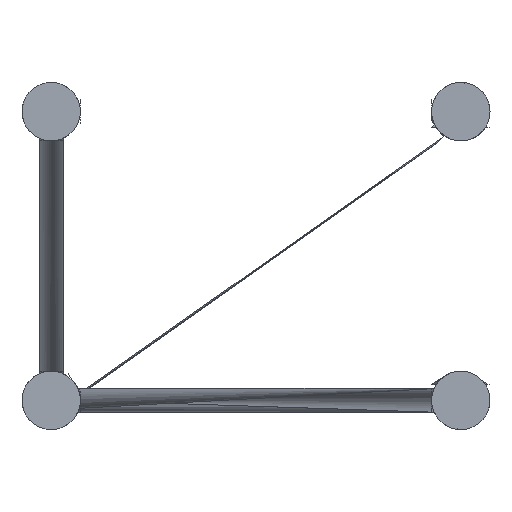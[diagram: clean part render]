
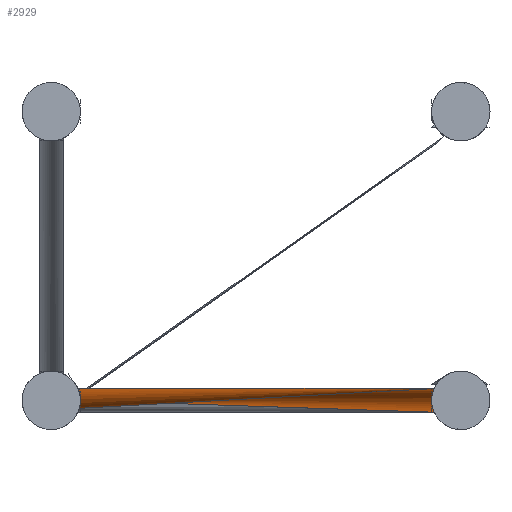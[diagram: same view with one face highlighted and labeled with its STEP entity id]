
A CAD part, left-side view. The second image highlights one B-rep face of the part: STEP entity #2929.
In plain terms, the highlighted cylindrical face has radius 10 mm (diameter 20 mm), a partial arc.
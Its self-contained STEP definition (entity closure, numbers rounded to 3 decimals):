
#116=B_SPLINE_CURVE_WITH_KNOTS('',3,(#6158,#6159,#6160,#6161,#6162,#6163,
#6164,#6165,#6166,#6167,#6168,#6169,#6170,#6171,#6172,#6173,#6174,#6175,
#6176,#6177,#6178,#6179,#6180,#6181,#6182,#6183,#6184,#6185,#6186,#6187,
#6188,#6189,#6190,#6191,#6192,#6193,#6194,#6195,#6196,#6197,#6198,#6199,
#6200,#6201,#6202,#6203),.UNSPECIFIED.,.T.,.F.,(4,2,2,2,2,2,2,2,2,2,2,2,
2,2,2,2,2,2,2,2,2,2,4),(0.,0.59,1.18,1.458,
1.736,1.91,2.084,2.259,2.433,
2.711,2.989,3.579,4.169,4.681,
4.937,5.193,5.558,5.924,6.29,
6.655,6.911,7.167,7.679),
 .UNSPECIFIED.);
#117=B_SPLINE_CURVE_WITH_KNOTS('',3,(#6205,#6206,#6207,#6208,#6209,#6210,
#6211,#6212,#6213,#6214,#6215,#6216,#6217,#6218,#6219,#6220,#6221,#6222,
#6223,#6224,#6225,#6226,#6227,#6228,#6229,#6230,#6231,#6232,#6233,#6234,
#6235,#6236,#6237,#6238,#6239,#6240,#6241,#6242,#6243,#6244,#6245,#6246,
#6247,#6248,#6249,#6250),.UNSPECIFIED.,.T.,.F.,(4,2,2,2,2,2,2,2,2,2,2,2,
2,2,2,2,2,2,2,2,2,2,4),(0.,0.59,1.18,1.458,
1.736,1.91,2.084,2.259,2.433,
2.711,2.989,3.579,4.169,4.681,
4.937,5.193,5.558,5.924,6.29,
6.655,6.911,7.167,7.679),
 .UNSPECIFIED.);
#225=FACE_BOUND('',#783,.T.);
#389=CYLINDRICAL_SURFACE('',#3262,10.);
#544=FACE_OUTER_BOUND('',#782,.T.);
#782=EDGE_LOOP('',(#2263));
#783=EDGE_LOOP('',(#2264));
#1409=VERTEX_POINT('',#6157);
#1410=VERTEX_POINT('',#6204);
#1745=EDGE_CURVE('',#1409,#1409,#116,.T.);
#1746=EDGE_CURVE('',#1410,#1410,#117,.T.);
#2263=ORIENTED_EDGE('',*,*,#1745,.F.);
#2264=ORIENTED_EDGE('',*,*,#1746,.F.);
#2929=ADVANCED_FACE('',(#544,#225),#389,.T.);
#3262=AXIS2_PLACEMENT_3D('',#6156,#3965,#3966);
#3965=DIRECTION('center_axis',(-0.749,-0.663,0.));
#3966=DIRECTION('ref_axis',(-0.663,0.749,0.));
#6156=CARTESIAN_POINT('Origin',(439.489,322.34,-239.));
#6157=CARTESIAN_POINT('',(99.997,21.982,-249.));
#6158=CARTESIAN_POINT('Ctrl Pts',(99.997,21.982,-249.));
#6159=CARTESIAN_POINT('Ctrl Pts',(101.964,21.982,-249.));
#6160=CARTESIAN_POINT('Ctrl Pts',(104.092,22.106,-248.739));
#6161=CARTESIAN_POINT('Ctrl Pts',(108.214,22.521,-247.735));
#6162=CARTESIAN_POINT('Ctrl Pts',(110.208,22.809,-246.995));
#6163=CARTESIAN_POINT('Ctrl Pts',(112.728,23.225,-245.636));
#6164=CARTESIAN_POINT('Ctrl Pts',(113.58,23.375,-245.102));
#6165=CARTESIAN_POINT('Ctrl Pts',(115.134,23.664,-243.861));
#6166=CARTESIAN_POINT('Ctrl Pts',(115.836,23.802,-243.153));
#6167=CARTESIAN_POINT('Ctrl Pts',(116.699,23.976,-241.93));
#6168=CARTESIAN_POINT('Ctrl Pts',(117.009,24.04,-241.377));
#6169=CARTESIAN_POINT('Ctrl Pts',(117.43,24.127,-240.203));
#6170=CARTESIAN_POINT('Ctrl Pts',(117.538,24.15,-239.581));
#6171=CARTESIAN_POINT('Ctrl Pts',(117.538,24.15,-238.419));
#6172=CARTESIAN_POINT('Ctrl Pts',(117.43,24.127,-237.797));
#6173=CARTESIAN_POINT('Ctrl Pts',(117.009,24.04,-236.623));
#6174=CARTESIAN_POINT('Ctrl Pts',(116.699,23.976,-236.07));
#6175=CARTESIAN_POINT('Ctrl Pts',(115.836,23.802,-234.847));
#6176=CARTESIAN_POINT('Ctrl Pts',(115.134,23.664,-234.139));
#6177=CARTESIAN_POINT('Ctrl Pts',(113.58,23.375,-232.898));
#6178=CARTESIAN_POINT('Ctrl Pts',(112.728,23.225,-232.364));
#6179=CARTESIAN_POINT('Ctrl Pts',(110.208,22.809,-231.005));
#6180=CARTESIAN_POINT('Ctrl Pts',(108.214,22.521,-230.265));
#6181=CARTESIAN_POINT('Ctrl Pts',(104.092,22.106,-229.261));
#6182=CARTESIAN_POINT('Ctrl Pts',(101.964,21.982,-229.));
#6183=CARTESIAN_POINT('Ctrl Pts',(98.291,21.982,-229.));
#6184=CARTESIAN_POINT('Ctrl Pts',(96.435,22.079,-229.2));
#6185=CARTESIAN_POINT('Ctrl Pts',(93.86,22.406,-229.985));
#6186=CARTESIAN_POINT('Ctrl Pts',(93.035,22.543,-230.326));
#6187=CARTESIAN_POINT('Ctrl Pts',(91.516,22.851,-231.174));
#6188=CARTESIAN_POINT('Ctrl Pts',(90.822,23.022,-231.68));
#6189=CARTESIAN_POINT('Ctrl Pts',(89.351,23.429,-233.082));
#6190=CARTESIAN_POINT('Ctrl Pts',(88.596,23.685,-234.139));
#6191=CARTESIAN_POINT('Ctrl Pts',(87.6,24.048,-236.489));
#6192=CARTESIAN_POINT('Ctrl Pts',(87.355,24.15,-237.781));
#6193=CARTESIAN_POINT('Ctrl Pts',(87.355,24.15,-240.219));
#6194=CARTESIAN_POINT('Ctrl Pts',(87.6,24.048,-241.511));
#6195=CARTESIAN_POINT('Ctrl Pts',(88.596,23.685,-243.861));
#6196=CARTESIAN_POINT('Ctrl Pts',(89.351,23.429,-244.918));
#6197=CARTESIAN_POINT('Ctrl Pts',(90.822,23.022,-246.32));
#6198=CARTESIAN_POINT('Ctrl Pts',(91.516,22.851,-246.826));
#6199=CARTESIAN_POINT('Ctrl Pts',(93.035,22.543,-247.674));
#6200=CARTESIAN_POINT('Ctrl Pts',(93.86,22.406,-248.015));
#6201=CARTESIAN_POINT('Ctrl Pts',(96.435,22.079,-248.8));
#6202=CARTESIAN_POINT('Ctrl Pts',(98.291,21.982,-249.));
#6203=CARTESIAN_POINT('Ctrl Pts',(99.997,21.982,-249.));
#6204=CARTESIAN_POINT('',(446.115,314.85,-239.));
#6205=CARTESIAN_POINT('Ctrl Pts',(433.474,317.018,-249.));
#6206=CARTESIAN_POINT('Ctrl Pts',(431.506,317.018,-249.));
#6207=CARTESIAN_POINT('Ctrl Pts',(429.378,316.894,-248.739));
#6208=CARTESIAN_POINT('Ctrl Pts',(425.257,316.479,-247.735));
#6209=CARTESIAN_POINT('Ctrl Pts',(423.262,316.191,-246.995));
#6210=CARTESIAN_POINT('Ctrl Pts',(420.742,315.775,-245.636));
#6211=CARTESIAN_POINT('Ctrl Pts',(419.89,315.625,-245.102));
#6212=CARTESIAN_POINT('Ctrl Pts',(418.336,315.336,-243.861));
#6213=CARTESIAN_POINT('Ctrl Pts',(417.635,315.198,-243.153));
#6214=CARTESIAN_POINT('Ctrl Pts',(416.771,315.024,-241.93));
#6215=CARTESIAN_POINT('Ctrl Pts',(416.461,314.96,-241.377));
#6216=CARTESIAN_POINT('Ctrl Pts',(416.04,314.873,-240.203));
#6217=CARTESIAN_POINT('Ctrl Pts',(415.932,314.85,-239.581));
#6218=CARTESIAN_POINT('Ctrl Pts',(415.932,314.85,-238.419));
#6219=CARTESIAN_POINT('Ctrl Pts',(416.04,314.873,-237.797));
#6220=CARTESIAN_POINT('Ctrl Pts',(416.461,314.96,-236.623));
#6221=CARTESIAN_POINT('Ctrl Pts',(416.771,315.024,-236.07));
#6222=CARTESIAN_POINT('Ctrl Pts',(417.635,315.198,-234.847));
#6223=CARTESIAN_POINT('Ctrl Pts',(418.336,315.336,-234.139));
#6224=CARTESIAN_POINT('Ctrl Pts',(419.89,315.625,-232.898));
#6225=CARTESIAN_POINT('Ctrl Pts',(420.742,315.775,-232.364));
#6226=CARTESIAN_POINT('Ctrl Pts',(423.262,316.191,-231.005));
#6227=CARTESIAN_POINT('Ctrl Pts',(425.257,316.479,-230.265));
#6228=CARTESIAN_POINT('Ctrl Pts',(429.378,316.894,-229.261));
#6229=CARTESIAN_POINT('Ctrl Pts',(431.506,317.018,-229.));
#6230=CARTESIAN_POINT('Ctrl Pts',(435.179,317.018,-229.));
#6231=CARTESIAN_POINT('Ctrl Pts',(437.035,316.921,-229.2));
#6232=CARTESIAN_POINT('Ctrl Pts',(439.61,316.594,-229.985));
#6233=CARTESIAN_POINT('Ctrl Pts',(440.435,316.457,-230.326));
#6234=CARTESIAN_POINT('Ctrl Pts',(441.954,316.149,-231.174));
#6235=CARTESIAN_POINT('Ctrl Pts',(442.648,315.978,-231.68));
#6236=CARTESIAN_POINT('Ctrl Pts',(444.119,315.571,-233.082));
#6237=CARTESIAN_POINT('Ctrl Pts',(444.874,315.315,-234.139));
#6238=CARTESIAN_POINT('Ctrl Pts',(445.87,314.952,-236.489));
#6239=CARTESIAN_POINT('Ctrl Pts',(446.115,314.85,-237.781));
#6240=CARTESIAN_POINT('Ctrl Pts',(446.115,314.85,-240.219));
#6241=CARTESIAN_POINT('Ctrl Pts',(445.87,314.952,-241.511));
#6242=CARTESIAN_POINT('Ctrl Pts',(444.874,315.315,-243.861));
#6243=CARTESIAN_POINT('Ctrl Pts',(444.119,315.571,-244.918));
#6244=CARTESIAN_POINT('Ctrl Pts',(442.648,315.978,-246.32));
#6245=CARTESIAN_POINT('Ctrl Pts',(441.954,316.149,-246.826));
#6246=CARTESIAN_POINT('Ctrl Pts',(440.435,316.457,-247.674));
#6247=CARTESIAN_POINT('Ctrl Pts',(439.61,316.594,-248.015));
#6248=CARTESIAN_POINT('Ctrl Pts',(437.035,316.921,-248.8));
#6249=CARTESIAN_POINT('Ctrl Pts',(435.179,317.018,-249.));
#6250=CARTESIAN_POINT('Ctrl Pts',(433.474,317.018,-249.));
